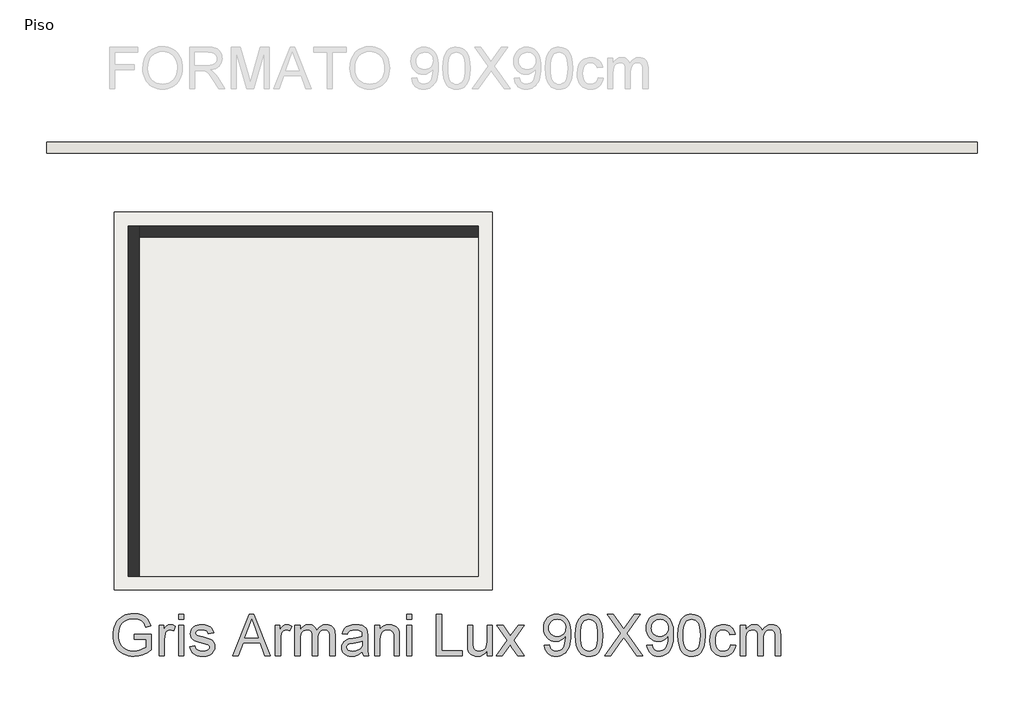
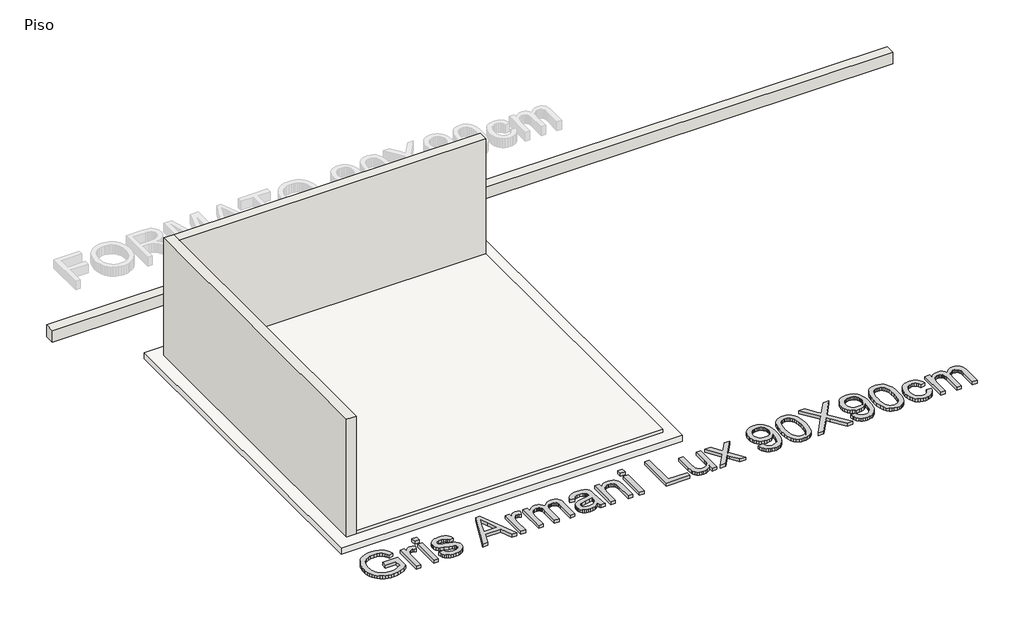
# One storey, part 1 of 2: 3 walls, 2 slabs, 1 proxy.
"""IFC4 building model written with IfcOpenShell, lengths in millimetres."""

from ifc_helpers import new_model, si_unit, frame, origin, origin_with_axes, place, context, project, spatial, polyline, outline, extrude, faceted_brep, element, save

model = new_model("IFC4")

# Units and contexts
model_context = context("Model", 3, world=origin())
ifc_project = project(units=[si_unit("LENGTHUNIT", "METRE", prefix="MILLI")], contexts=[model_context])

# Site, building, storey
site = spatial("IfcSite", under=ifc_project)
building = spatial("IfcBuilding", under=site)
storey = spatial("IfcBuildingStorey", under=building, Name="Piso", Elevation=0.0)

# Proxy
placement = place(None, origin())
element("IfcBuildingElementProxy", 1, Name="600mm Arial", ObjectType="600mm Arial", at=placement, inside=storey, context=model_context, shape_type="SweptSolid", body=[
    extrude(outline(polyline([(92961.2166585, -5291.3278966), (92961.2166585, -5215.985664), (93206.0789145, -5215.985664), (93206.0789145, -5441.2765979), (93146.5740018, -5482.6633223), (93085.1928909, -5512.3513993), (93022.0827346, -5530.2304643), (92957.3906857, -5536.1901526), (92914.1139675, -5533.8219123), (92872.8697973, -5526.7171912), (92833.6581752, -5514.8759895), (92796.479101, -5498.2983071), (92762.5327899, -5477.2324644), (92733.0194569, -5451.9267816), (92707.9391019, -5422.3812589), (92687.2917249, -5388.5958961), (92671.1646979, -5351.6513468), (92659.6453929, -5312.6282641), (92652.73381, -5271.5266482), (92650.429949, -5228.346499), (92652.7246129, -5185.1617513), (92659.6086047, -5143.4577287), (92671.0819245, -5103.234431), (92687.1445721, -5064.4918584), (92707.511439, -5028.931465), (92731.8974168, -4998.2547052), (92760.3025053, -4972.4615788), (92792.7267047, -4951.5520859), (92828.4664405, -4935.3928692), (92866.8181385, -4923.8505716), (92907.7817987, -4916.9251931), (92951.357421, -4914.6167336), (93013.4191136, -4919.9694166), (93069.2268123, -4936.0274657), (93094.1462189, -4947.7812954), (93116.2237372, -4961.6320525), (93135.459367, -4977.579737), (93151.8531084, -4995.6243489), (93178.2118533, -5039.6414296), (93197.3968994, -5095.3203696), (93127.9407787, -5114.8916917), (93112.4345526, -5075.1788304), (93093.5806003, -5045.2148419), (93068.6382011, -5022.6268873), (93034.8666339, -5005.042128), (92994.6019495, -4993.7297566), (92950.1801986, -4989.9589662), (92898.1800786, -4994.0240622), (92853.7215395, -5006.2193504), (92816.9701282, -5025.0181203), (92788.0913916, -5048.8936618), (92765.9265013, -5076.6135701), (92749.3166293, -5106.9454406), (92731.6582935, -5163.8199971), (92725.7721816, -5225.2562903), (92727.5426137, -5262.8768228), (92732.85391, -5297.305979), (92741.7060705, -5328.543759), (92754.0990952, -5356.5901626), (92769.8720357, -5381.3394238), (92788.8639437, -5402.6857766), (92811.0748192, -5420.6292209), (92836.5046621, -5435.1697567), (92863.9624545, -5446.4039532), (92892.2571785, -5454.4283792), (92921.388834, -5459.2430348), (92951.357421, -5460.84792), (93003.541482, -5456.0102718), (93054.4379561, -5441.4973271), (93098.6389778, -5421.5029406), (93130.7366819, -5400.2209672), (93130.7366819, -5291.3278966), (92961.2166585, -5291.3278966)])), origin_with_axes(), (0.0, 0.0, 1.0), 50.0),
    extrude(outline(polyline([(93319.0922634, -5526.7723735), (93319.0922634, -5084.1367569), (93385.0167169, -5084.1367569), (93385.0167169, -5149.6197521), (93409.370505, -5111.6543302), (93431.8113067, -5089.2871049), (93454.3256848, -5078.3610096), (93478.9002021, -5074.7189779), (93516.4241656, -5080.5315134), (93554.5367403, -5097.96912), (93529.3736118, -5165.5122543), (93502.8861082, -5153.9239714), (93476.3986045, -5150.0612105), (93453.9026205, -5153.7768186), (93433.7978695, -5164.9236431), (93417.5558794, -5182.6555552), (93406.6481782, -5206.1264265), (93397.4879166, -5248.2121268), (93394.434496, -5294.1237998), (93394.434496, -5526.7723735), (93319.0922634, -5526.7723735)])), origin_with_axes(), (0.0, 0.0, 1.0), 50.0),
    extrude(outline(polyline([(93601.6256357, -4999.3767453), (93601.6256357, -4924.0345126), (93676.9678683, -4924.0345126), (93676.9678683, -4999.3767453), (93601.6256357, -4999.3767453)])), origin_with_axes(), (0.0, 0.0, 1.0), 50.0),
    extrude(outline(polyline([(93601.6256357, -5526.7723735), (93601.6256357, -5084.1367569), (93676.9678683, -5084.1367569), (93676.9678683, -5526.7723735), (93601.6256357, -5526.7723735)])), origin_with_axes(), (0.0, 0.0, 1.0), 50.0),
    extrude(outline(polyline([(93761.72788, -5394.9234665), (93837.0701126, -5385.5056874), (93841.6226523, -5402.6857766), (93848.952701, -5417.7321502), (93859.0602589, -5430.6448082), (93871.9453257, -5441.4237507), (93887.6446899, -5449.9218247), (93906.1951395, -5455.9918777), (93951.8492951, -5460.84792), (93996.9516277, -5456.3965479), (94014.4812048, -5450.8323327), (94028.6630557, -5443.0424314), (94047.4250374, -5423.6918385), (94052.1155329, -5412.8577137), (94053.6790314, -5401.2510368), (94052.1063358, -5391.0790996), (94047.3882492, -5382.0475966), (94028.5159029, -5367.4058932), (94000.2993539, -5357.8409614), (93950.9663783, -5345.9215847), (93882.2092334, -5326.0375629), (93837.511571, -5309.0598088), (93808.7983813, -5290.5369503), (93787.9946544, -5266.0176154), (93775.3579079, -5237.0653023), (93771.1456591, -5205.2435098), (93774.5301734, -5176.0520734), (93784.6837165, -5149.1047173), (93800.6865833, -5125.4682991), (93821.6190688, -5106.2096767), (93842.4227956, -5094.0879649), (93869.5173046, -5083.9160277), (93900.8424565, -5077.0182403), (93934.3381121, -5074.7189779), (93983.3767821, -5078.4161919), (94026.0143053, -5089.5078341), (94060.3009073, -5106.9086524), (94084.2868134, -5129.5333951), (94100.1793156, -5159.0559253), (94110.1857058, -5197.1501059), (94034.8434732, -5206.5678849), (94025.3337236, -5182.8578903), (94006.5165596, -5164.9972195), (93978.2080401, -5153.7952127), (93940.224224, -5150.0612105), (93896.9613014, -5153.6296658), (93868.119353, -5164.3350319), (93851.895757, -5179.7860757), (93846.4878917, -5197.5915643), (93848.7319718, -5209.1798471), (93855.4642124, -5219.5173312), (93866.9789188, -5228.7511692), (93883.5703968, -5236.1455973), (93948.4647807, -5252.1852523), (94059.0501085, -5287.6490767), (94088.2599389, -5304.6084366), (94110.406435, -5327.8217905), (94124.3675567, -5357.3627148), (94129.021264, -5393.3047857), (94123.5582163, -5430.4608672), (94107.1690735, -5465.4096567), (94080.4792347, -5495.4104334), (94044.1140995, -5517.7224765), (94000.1889893, -5531.5732336), (93950.8192255, -5536.1901526), (93910.2694326, -5533.9644665), (93874.8515935, -5527.2874083), (93844.5657083, -5516.158978), (93819.4117768, -5500.5791755), (93798.8655674, -5480.6215772), (93782.4028481, -5456.3597597), (93770.023619, -5427.7937227), (93761.72788, -5394.9234665)])), origin_with_axes(), (0.0, 0.0, 1.0), 50.0),
    extrude(outline(polyline([(94388.451647, -5526.7723735), (94629.0464718, -4924.0345126), (94693.2050918, -4924.0345126), (94933.7999166, -5526.7723735), (94854.1902529, -5526.7723735), (94785.1755906, -5338.416792), (94536.9288202, -5338.416792), (94468.0613107, -5526.7723735), (94388.451647, -5526.7723735)]), holes=[polyline([(94564.5935463, -5263.0745594), (94757.6580173, -5263.0745594), (94703.3586348, -5114.8916917), (94661.1257818, -4999.3767453), (94623.6018183, -5101.9422455), (94564.5935463, -5263.0745594)])]), origin_with_axes(), (0.0, 0.0, 1.0), 50.0),
    extrude(outline(polyline([(95004.8747181, -5526.7723735), (95004.8747181, -5084.1367569), (95070.7991716, -5084.1367569), (95070.7991716, -5149.6197521), (95095.1529597, -5111.6543302), (95117.5937614, -5089.2871049), (95140.1081395, -5078.3610096), (95164.6826568, -5074.7189779), (95202.2066203, -5080.5315134), (95240.319195, -5097.96912), (95215.1560665, -5165.5122543), (95188.6685629, -5153.9239714), (95162.1810592, -5150.0612105), (95139.6850752, -5153.7768186), (95119.5803242, -5164.9236431), (95103.3383341, -5182.6555552), (95092.4306329, -5206.1264265), (95083.2703713, -5248.2121268), (95080.2169507, -5294.1237998), (95080.2169507, -5526.7723735), (95004.8747181, -5526.7723735)])), origin_with_axes(), (0.0, 0.0, 1.0), 50.0),
    extrude(outline(polyline([(95287.4080904, -5526.7723735), (95287.4080904, -5084.1367569), (95362.750323, -5084.1367569), (95362.750323, -5156.977392), (95385.4118539, -5123.5185245), (95414.5481079, -5097.3069324), (95449.1658037, -5080.3659665), (95488.2716598, -5074.7189779), (95530.173419, -5080.4763311), (95548.0064987, -5087.6730226), (95563.7610452, -5097.7483908), (95588.8505972, -5125.3947227), (95605.2581342, -5162.2748927), (95632.7205252, -5123.96918), (95664.045677, -5096.6079566), (95699.2335899, -5080.1912225), (95738.2842637, -5074.7189779), (95768.4459888, -5076.9952477), (95794.9196968, -5083.8240572), (95817.7053879, -5095.2054065), (95836.803062, -5111.1392954), (95851.9000194, -5131.809665), (95862.6835603, -5157.4004563), (95869.1536849, -5187.9116693), (95871.3103931, -5223.3433039), (95871.3103931, -5526.7723735), (95795.9681605, -5526.7723735), (95795.9681605, -5255.7169195), (95794.220721, -5218.1377737), (95788.9784026, -5192.8090983), (95779.1559533, -5175.4634622), (95763.6681213, -5161.8334343), (95743.7473113, -5153.0042664), (95720.6259279, -5150.0612105), (95699.2749766, -5151.9466057), (95679.8094205, -5157.6027914), (95662.2292597, -5167.0297675), (95646.5344941, -5180.2275341), (95633.6264346, -5197.5823672), (95624.4063921, -5219.480543), (95618.8743666, -5245.9220614), (95617.0303581, -5276.9069224), (95617.0303581, -5526.7723735), (95541.6881255, -5526.7723735), (95541.6881255, -5247.32921), (95537.3287238, -5204.728475), (95531.8794718, -5188.0082383), (95524.2505189, -5174.3414222), (95514.1383625, -5163.7188295), (95501.2395001, -5156.1312634), (95485.5539315, -5151.5787237), (95467.0816568, -5150.0612105), (95438.0557674, -5154.1079124), (95411.3107464, -5166.2480183), (95389.2378267, -5186.1872224), (95374.2282412, -5213.6312192), (95365.6198026, -5251.7070057), (95362.750323, -5303.5415789), (95362.750323, -5526.7723735), (95287.4080904, -5526.7723735)])), origin_with_axes(), (0.0, 0.0, 1.0), 50.0),
    extrude(outline(polyline([(96266.8571143, -5470.2656991), (96230.8598611, -5501.1309985), (96193.7957501, -5521.32772), (96154.8186527, -5532.4745445), (96113.0824404, -5536.1901526), (96079.5362009, -5533.9552695), (96050.1194369, -5527.2506201), (96024.8321482, -5516.0762045), (96003.674335, -5500.4320227), (95986.9678939, -5481.311356), (95975.0347217, -5459.7074858), (95967.8748183, -5435.6204122), (95965.4881839, -5409.0501351), (95969.0934274, -5377.8169537), (95979.9091581, -5349.4532519), (95996.5926066, -5325.1730402), (96017.8010036, -5306.1903292), (96042.7250088, -5291.8429314), (96070.5552817, -5281.4686592), (96135.7439713, -5270.1378937), (96212.7784611, -5258.2185171), (96266.415656, -5244.2390012), (96266.8571143, -5227.4635823), (96261.6699782, -5193.8391679), (96255.186058, -5181.3863624), (96246.1085698, -5171.8398246), (96230.4184027, -5162.3116809), (96211.3069331, -5155.505864), (96162.8200861, -5150.0612105), (96117.9384827, -5153.6848481), (96086.5949367, -5164.5557611), (96065.2209928, -5184.6605121), (96050.2481956, -5215.985664), (95974.905963, -5206.5678849), (95987.9841679, -5165.3651015), (96007.5003077, -5132.9914859), (96035.2753984, -5108.2330276), (96073.1304557, -5089.8757161), (96119.4284048, -5078.5081624), (96172.5321708, -5074.7189779), (96223.465433, -5078.066704), (96263.840482, -5088.1098825), (96294.2827171, -5103.2114384), (96315.4175377, -5121.7342968), (96329.4338417, -5144.634951), (96338.520527, -5172.8698942), (96342.199347, -5238.7943477), (96342.199347, -5332.5306801), (96346.0253197, -5463.423094), (96351.6907024, -5495.7783154), (96361.0349051, -5526.7723735), (96285.6926725, -5526.7723735), (96273.6261431, -5500.5791755), (96266.8571143, -5470.2656991)]), holes=[polyline([(96266.8571143, -5319.5812339), (96216.2365518, -5332.1260099), (96145.3089031, -5342.6842232), (96080.4880956, -5354.8979054), (96063.6207061, -5363.2488267), (96051.1311124, -5374.7635331), (96043.4055905, -5388.5591079), (96040.8304165, -5403.7526343), (96046.4406169, -5426.1566479), (96063.2712182, -5444.5139594), (96090.9543384, -5456.7644299), (96129.1220954, -5460.84792), (96169.5891148, -5456.3413656), (96205.3472448, -5442.8217022), (96234.336346, -5422.9008922), (96254.4962793, -5399.1908976), (96263.4358118, -5374.7635331), (96266.415656, -5340.9183896), (96266.8571143, -5319.5812339)])]), origin_with_axes(), (0.0, 0.0, 1.0), 50.0),
    extrude(outline(polyline([(96445.7949168, -5526.7723735), (96445.7949168, -5084.1367569), (96521.1371494, -5084.1367569), (96521.1371494, -5145.9409321), (96547.3119534, -5114.7813271), (96578.7474699, -5092.5244664), (96615.4436989, -5079.17035), (96657.4006404, -5074.7189779), (96694.5383278, -5078.3058273), (96728.5490183, -5089.0663757), (96756.9127201, -5105.6578537), (96777.1094417, -5126.737492), (96790.813046, -5152.2501083), (96799.6973962, -5182.1405205), (96803.6705217, -5254.9811555), (96803.6705217, -5526.7723735), (96728.3282891, -5526.7723735), (96728.3282891, -5265.1346986), (96726.1577853, -5226.1759953), (96719.646274, -5198.474481), (96707.6349269, -5178.6272474), (96688.9649156, -5163.2313859), (96665.0341918, -5153.3537543), (96637.2407071, -5150.0612105), (96614.3630455, -5151.9098175), (96593.1132618, -5157.4556386), (96573.4913558, -5166.6986737), (96555.4973278, -5179.6389229), (96540.4647497, -5197.7479141), (96529.727194, -5222.4971753), (96523.2846606, -5253.8867066), (96521.1371494, -5291.9165078), (96521.1371494, -5526.7723735), (96445.7949168, -5526.7723735)])), origin_with_axes(), (0.0, 0.0, 1.0), 50.0),
    extrude(outline(polyline([(96907.2660915, -4999.3767453), (96907.2660915, -4924.0345126), (96982.6083242, -4924.0345126), (96982.6083242, -4999.3767453), (96907.2660915, -4999.3767453)])), origin_with_axes(), (0.0, 0.0, 1.0), 50.0),
    extrude(outline(polyline([(96907.2660915, -5526.7723735), (96907.2660915, -5084.1367569), (96982.6083242, -5084.1367569), (96982.6083242, -5526.7723735), (96907.2660915, -5526.7723735)])), origin_with_axes(), (0.0, 0.0, 1.0), 50.0),
    extrude(outline(polyline([(97340.4839291, -5526.7723735), (97340.4839291, -4924.0345126), (97415.8261617, -4924.0345126), (97415.8261617, -5451.4301409), (97717.1950921, -5451.4301409), (97717.1950921, -5526.7723735), (97340.4839291, -5526.7723735)])), origin_with_axes(), (0.0, 0.0, 1.0), 50.0),
    extrude(outline(polyline([(98075.070697, -5526.7723735), (98075.070697, -5450.6943769), (98047.8106412, -5488.0987788), (98016.062425, -5514.8162087), (97979.8260485, -5530.8466666), (97939.1015116, -5536.1901526), (97902.4052826, -5532.4377563), (97868.2474393, -5521.1805672), (97839.5894319, -5504.2579954), (97819.3927104, -5483.5094509), (97805.7994707, -5458.3095342), (97796.9519087, -5428.032846), (97792.5373247, -5357.9881141), (97792.5373247, -5084.1367569), (97867.8795574, -5084.1367569), (97867.8795574, -5322.5242898), (97869.0199915, -5370.2017964), (97872.4412941, -5399.3380504), (97883.4225717, -5424.9610314), (97902.2397357, -5444.440383), (97927.6419875, -5456.7460358), (97958.3785282, -5460.84792), (97990.8809024, -5456.6540653), (98021.2863493, -5444.072501), (98046.3575073, -5424.2620556), (98062.8570148, -5398.3815572), (98072.0172765, -5362.936127), (98075.070697, -5314.4308859), (98075.070697, -5084.1367569), (98150.4129296, -5084.1367569), (98150.4129296, -5526.7723735), (98075.070697, -5526.7723735)])), origin_with_axes(), (0.0, 0.0, 1.0), 50.0),
    extrude(outline(polyline([(98206.9196041, -5526.7723735), (98367.9047652, -5304.2773429), (98216.3373832, -5084.1367569), (98306.9835068, -5084.1367569), (98380.1184474, -5190.0867716), (98414.2578966, -5240.1187229), (98443.835609, -5199.210245), (98527.1240927, -5084.1367569), (98617.7702163, -5084.1367569), (98458.5508888, -5304.2773429), (98611.8841044, -5526.7723735), (98521.2379808, -5526.7723735), (98428.9731764, -5393.0104801), (98412.0506046, -5368.5831156), (98297.5657277, -5526.7723735), (98206.9196041, -5526.7723735)])), origin_with_axes(), (0.0, 0.0, 1.0), 50.0),
    extrude(outline(polyline([(98903.8352558, -5376.0879083), (98979.1774884, -5366.6701292), (98992.0533582, -5409.4364112), (99001.5263196, -5425.7013939), (99013.0226319, -5438.5542711), (99026.4135366, -5448.3077425), (99041.5702748, -5455.2745078), (99077.1812519, -5460.84792), (99109.1318032, -5457.2610705), (99138.1760867, -5446.5005222), (99162.3091456, -5429.7434973), (99179.526023, -5408.1672183), (99192.5674397, -5379.8035165), (99204.1741166, -5342.6842232), (99212.3410969, -5300.0834881), (99215.0634237, -5255.2754611), (99214.6219653, -5240.5601813), (99188.5207377, -5272.4187621), (99154.3628945, -5297.6554669), (99114.6132449, -5314.0997921), (99071.7365984, -5319.5812339), (99035.9462788, -5316.2335077), (99003.0346358, -5306.1903292), (98973.0016694, -5289.4516984), (98945.8473796, -5266.0176154), (98923.3467971, -5237.1112876), (98907.2749524, -5203.9559228), (98897.6318456, -5166.5515209), (98894.4174767, -5124.898082), (98897.7881955, -5081.8558886), (98907.9003518, -5043.2282791), (98924.7539457, -5009.0152535), (98948.3489772, -4979.2168119), (98977.0207802, -4955.074556), (99009.1046887, -4937.8300875), (99044.6007027, -4927.4834063), (99083.5088222, -4924.0345126), (99112.2358075, -4926.0026813), (99139.702797, -4931.9071873), (99165.9097906, -4941.7480307), (99190.8567884, -4955.5252114), (99213.7114574, -4972.9444239), (99233.6414644, -4993.7113625), (99250.6468097, -5017.8260273), (99264.727493, -5045.2884182), (99275.7685514, -5077.6804279), (99283.6550217, -5116.5839489), (99288.3869039, -5161.9989812), (99289.9641979, -5213.9255248), (99288.3915024, -5268.4594321), (99283.6734158, -5317.1348186), (99275.8099381, -5359.9516843), (99264.8010694, -5396.9100292), (99250.6881964, -5428.9111643), (99233.5127057, -5456.8564004), (99213.2745975, -5480.7457374), (99189.9738716, -5500.5791755), (99164.0795777, -5516.158978), (99136.0607652, -5527.2874083), (99105.9174342, -5533.9644665), (99073.6495847, -5536.1901526), (99039.8136382, -5533.5643949), (99009.2334474, -5525.6871217), (98981.9090122, -5512.5583329), (98957.8403327, -5494.1780288), (98937.6344141, -5471.0428498), (98921.8982617, -5443.6494367), (98910.6318756, -5411.9977896), (98903.8352558, -5376.0879083)]), holes=[polyline([(99214.6219653, -5123.1322484), (99212.5894173, -5096.12971), (99206.4917732, -5072.0702275), (99196.3290331, -5050.953801), (99182.1011969, -5032.7804304), (99164.5072405, -5018.1663182), (99144.2461396, -5007.7276665), (99121.3178943, -5001.4644756), (99095.7225045, -4999.3767453), (99069.3085772, -5001.6254239), (99045.3962475, -5008.37146), (99023.9855154, -5019.6148535), (99005.0763808, -5035.3556044), (98989.625337, -5054.6740077), (98978.5888772, -5076.6503583), (98971.9670013, -5101.2846564), (98969.7597093, -5128.576902), (98971.8474396, -5153.0548502), (98978.1106306, -5175.1323684), (98988.5492822, -5194.8094567), (99003.1633945, -5212.0861149), (99021.3459621, -5226.1530027), (99042.4899798, -5236.2007796), (99066.5954475, -5242.2294458), (99093.6623653, -5244.2390012), (99118.9036687, -5242.2294458), (99141.7997244, -5236.2007796), (99162.3505323, -5226.1530027), (99180.5560925, -5212.0861149), (99195.4599119, -5194.4691658), (99206.1054971, -5173.7712051), (99212.4928483, -5149.9922326), (99214.6219653, -5123.1322484)])]), origin_with_axes(), (0.0, 0.0, 1.0), 50.0),
    extrude(outline(polyline([(99355.8886514, -5230.2594854), (99361.4252755, -5133.7824322), (99368.3460555, -5092.8693558), (99378.0351476, -5056.8399129), (99390.4511649, -5025.3997979), (99405.5527208, -4998.2547052), (99423.3398153, -4975.4046347), (99443.8124483, -4956.8495866), (99467.0395978, -4942.4929917), (99493.0902415, -4932.2382811), (99521.9643796, -4926.0854548), (99553.6620121, -4924.0345126), (99600.0887198, -4928.890555), (99641.6593853, -4943.458682), (99676.4242338, -4967.1686766), (99702.4334909, -4999.4503217), (99722.0783894, -5040.0277057), (99737.7501624, -5088.6249173), (99748.0140701, -5150.337122), (99751.4353727, -5230.2594854), (99745.9539309, -5326.1847157), (99739.1021288, -5366.9598363), (99729.5096057, -5402.943294), (99717.1901574, -5434.3972045), (99702.1575794, -5461.583684), (99684.4118717, -5484.5027323), (99663.9530342, -5503.1543494), (99640.6982936, -5517.6075133), (99614.5648764, -5527.9312018), (99585.5527825, -5534.1254149), (99553.6620121, -5536.1901526), (99512.164923, -5532.6033032), (99475.3767235, -5521.8427548), (99443.2974135, -5503.9085075), (99415.9269931, -5478.8005614), (99389.6602186, -5433.4131202), (99370.8982368, -5376.8604605), (99359.6410478, -5309.1425822), (99355.8886514, -5230.2594854)]), holes=[polyline([(99431.2308841, -5230.1123326), (99433.438176, -5295.6091233), (99440.0600519, -5348.6255174), (99451.0965118, -5389.1615147), (99466.5475556, -5417.2171154), (99485.2359609, -5436.3055924), (99505.9845055, -5449.9402188), (99528.7931892, -5458.1209947), (99553.6620121, -5460.84792), (99578.5308349, -5458.1117977), (99601.3395186, -5449.9034306), (99622.0880632, -5436.2228189), (99640.7764685, -5417.0699626), (99656.2275123, -5388.9683767), (99667.2639722, -5348.4415764), (99673.8858481, -5295.4895617), (99676.09314, -5230.1123326), (99673.9594245, -5166.3491858), (99667.5582778, -5114.2662923), (99656.8896999, -5073.8636522), (99641.9536909, -5045.1412655), (99623.5779852, -5025.1192879), (99602.5903174, -5010.8178753), (99578.9906874, -5002.2370278), (99552.7790953, -4999.3767453), (99528.0390311, -5001.8967369), (99505.6166235, -5009.4567119), (99485.5118724, -5022.0566703), (99467.724778, -5039.6966119), (99451.7586994, -5070.9665815), (99440.3543575, -5113.1258582), (99433.5117524, -5166.1744419), (99431.2308841, -5230.1123326)])]), origin_with_axes(), (0.0, 0.0, 1.0), 50.0),
    extrude(outline(polyline([(99779.6887099, -5526.7723735), (100012.042978, -5198.3273282), (99817.3598262, -4924.0345126), (99907.7116442, -4924.0345126), (100017.3404788, -5078.3977978), (100043.4968886, -5117.5036539), (100054.2758311, -5138.5832922), (100097.5387537, -5077.3677282), (100205.9903659, -4924.0345126), (100297.6665591, -4924.0345126), (100102.9834073, -5199.210245), (100335.3376754, -5526.7723735), (100244.9858574, -5526.7723735), (100090.1811138, -5308.3976212), (100057.954651, -5263.0745594), (100022.4908267, -5312.8122051), (99871.3649031, -5526.7723735), (99779.6887099, -5526.7723735)])), origin_with_axes(), (0.0, 0.0, 1.0), 50.0),
    extrude(outline(polyline([(100391.8443499, -5376.0879083), (100467.1865825, -5366.6701292), (100480.0624523, -5409.4364112), (100489.5354137, -5425.7013939), (100501.031726, -5438.5542711), (100514.4226307, -5448.3077425), (100529.5793689, -5455.2745078), (100565.190346, -5460.84792), (100597.1408973, -5457.2610705), (100626.1851808, -5446.5005222), (100650.3182397, -5429.7434973), (100667.535117, -5408.1672183), (100680.5765338, -5379.8035165), (100692.1832107, -5342.6842232), (100700.350191, -5300.0834881), (100703.0725178, -5255.2754611), (100702.6310594, -5240.5601813), (100676.5298318, -5272.4187621), (100642.3719886, -5297.6554669), (100602.622339, -5314.0997921), (100559.7456925, -5319.5812339), (100523.9553729, -5316.2335077), (100491.0437299, -5306.1903292), (100461.0107635, -5289.4516984), (100433.8564737, -5266.0176154), (100411.3558912, -5237.1112876), (100395.2840465, -5203.9559228), (100385.6409397, -5166.5515209), (100382.4265708, -5124.898082), (100385.7972896, -5081.8558886), (100395.9094459, -5043.2282791), (100412.7630398, -5009.0152535), (100436.3580713, -4979.2168119), (100465.0298743, -4955.074556), (100497.1137828, -4937.8300875), (100532.6097968, -4927.4834063), (100571.5179163, -4924.0345126), (100600.2449016, -4926.0026813), (100627.7118911, -4931.9071873), (100653.9188847, -4941.7480307), (100678.8658825, -4955.5252114), (100701.7205515, -4972.9444239), (100721.6505585, -4993.7113625), (100738.6559038, -5017.8260273), (100752.7365871, -5045.2884182), (100763.7776455, -5077.6804279), (100771.6641158, -5116.5839489), (100776.3959979, -5161.9989812), (100777.973292, -5213.9255248), (100776.4005965, -5268.4594321), (100771.6825099, -5317.1348186), (100763.8190322, -5359.9516843), (100752.8101635, -5396.9100292), (100738.6972905, -5428.9111643), (100721.5217998, -5456.8564004), (100701.2836916, -5480.7457374), (100677.9829657, -5500.5791755), (100652.0886718, -5516.158978), (100624.0698593, -5527.2874083), (100593.9265283, -5533.9644665), (100561.6586788, -5536.1901526), (100527.8227323, -5533.5643949), (100497.2425415, -5525.6871217), (100469.9181063, -5512.5583329), (100445.8494268, -5494.1780288), (100425.6435082, -5471.0428498), (100409.9073558, -5443.6494367), (100398.6409697, -5411.9977896), (100391.8443499, -5376.0879083)]), holes=[polyline([(100702.6310594, -5123.1322484), (100700.5985114, -5096.12971), (100694.5008673, -5072.0702275), (100684.3381272, -5050.953801), (100670.110291, -5032.7804304), (100652.5163346, -5018.1663182), (100632.2552337, -5007.7276665), (100609.3269884, -5001.4644756), (100583.7315985, -4999.3767453), (100557.3176713, -5001.6254239), (100533.4053416, -5008.37146), (100511.9946095, -5019.6148535), (100493.0854749, -5035.3556044), (100477.6344311, -5054.6740077), (100466.5979713, -5076.6503583), (100459.9760954, -5101.2846564), (100457.7688034, -5128.576902), (100459.8565337, -5153.0548502), (100466.1197247, -5175.1323684), (100476.5583763, -5194.8094567), (100491.1724886, -5212.0861149), (100509.3550562, -5226.1530027), (100530.4990738, -5236.2007796), (100554.6045416, -5242.2294458), (100581.6714594, -5244.2390012), (100606.9127628, -5242.2294458), (100629.8088184, -5236.2007796), (100650.3596264, -5226.1530027), (100668.5651866, -5212.0861149), (100683.469006, -5194.4691658), (100694.1145912, -5173.7712051), (100700.5019423, -5149.9922326), (100702.6310594, -5123.1322484)])]), origin_with_axes(), (0.0, 0.0, 1.0), 50.0),
    extrude(outline(polyline([(100843.8977455, -5230.2594854), (100849.4343696, -5133.7824322), (100856.3551496, -5092.8693558), (100866.0442416, -5056.8399129), (100878.460259, -5025.3997979), (100893.5618149, -4998.2547052), (100911.3489094, -4975.4046347), (100931.8215424, -4956.8495866), (100955.0486919, -4942.4929917), (100981.0993356, -4932.2382811), (101009.9734737, -4926.0854548), (101041.6711061, -4924.0345126), (101088.0978139, -4928.890555), (101129.6684794, -4943.458682), (101164.4333279, -4967.1686766), (101190.442585, -4999.4503217), (101210.0874835, -5040.0277057), (101225.7592565, -5088.6249173), (101236.0231642, -5150.337122), (101239.4444668, -5230.2594854), (101233.963025, -5326.1847157), (101227.1112229, -5366.9598363), (101217.5186998, -5402.943294), (101205.1992515, -5434.3972045), (101190.1666735, -5461.583684), (101172.4209658, -5484.5027323), (101151.9621283, -5503.1543494), (101128.7073877, -5517.6075133), (101102.5739704, -5527.9312018), (101073.5618766, -5534.1254149), (101041.6711061, -5536.1901526), (101000.1740171, -5532.6033032), (100963.3858176, -5521.8427548), (100931.3065076, -5503.9085075), (100903.9360871, -5478.8005614), (100877.6693127, -5433.4131202), (100858.9073309, -5376.8604605), (100847.6501419, -5309.1425822), (100843.8977455, -5230.2594854)]), holes=[polyline([(100919.2399781, -5230.1123326), (100921.4472701, -5295.6091233), (100928.069146, -5348.6255174), (100939.1056059, -5389.1615147), (100954.5566497, -5417.2171154), (100973.245055, -5436.3055924), (100993.9935996, -5449.9402188), (101016.8022833, -5458.1209947), (101041.6711061, -5460.84792), (101066.539929, -5458.1117977), (101089.3486127, -5449.9034306), (101110.0971572, -5436.2228189), (101128.7855626, -5417.0699626), (101144.2366064, -5388.9683767), (101155.2730663, -5348.4415764), (101161.8949422, -5295.4895617), (101164.1022341, -5230.1123326), (101161.9685186, -5166.3491858), (101155.5673718, -5114.2662923), (101144.898794, -5073.8636522), (101129.962785, -5045.1412655), (101111.5870793, -5025.1192879), (101090.5994115, -5010.8178753), (101066.9997815, -5002.2370278), (101040.7881894, -4999.3767453), (101016.0481252, -5001.8967369), (100993.6257176, -5009.4567119), (100973.5209665, -5022.0566703), (100955.7338721, -5039.6966119), (100939.7677935, -5070.9665815), (100928.3634516, -5113.1258582), (100921.5208465, -5166.1744419), (100919.2399781, -5230.1123326)])]), origin_with_axes(), (0.0, 0.0, 1.0), 50.0),
    extrude(outline(polyline([(101606.7378507, -5366.6701292), (101682.0800833, -5376.0879083), (101673.8855119, -5411.6391046), (101661.0740214, -5443.0976137), (101643.6456119, -5470.4634356), (101621.6002833, -5493.7365704), (101595.8669378, -5512.3100126), (101567.3744773, -5525.5767571), (101536.1229018, -5533.5368037), (101502.1122113, -5536.1901526), (101459.8563656, -5532.48834), (101421.9691187, -5521.3829023), (101388.4504704, -5502.8738394), (101359.3004208, -5476.9611514), (101335.7053893, -5444.1322818), (101318.8517954, -5404.8746744), (101308.7396391, -5359.1883292), (101305.3689203, -5307.073246), (101311.1262735, -5240.0267524), (101318.322965, -5209.8558303), (101328.3983332, -5181.9197913), (101341.4213558, -5156.7796554), (101357.4610108, -5134.9964428), (101376.5172982, -5116.5701533), (101398.5902179, -5101.5007871), (101422.68189, -5089.7837456), (101447.7944347, -5081.4144302), (101473.927852, -5076.3928409), (101501.0821417, -5074.7189779), (101534.5088195, -5077.0182403), (101564.744121, -5083.9160277), (101591.7880462, -5095.4123401), (101615.640595, -5111.5071774), (101635.8970974, -5131.8326576), (101652.152883, -5156.0208988), (101664.407952, -5184.0719009), (101672.6623043, -5215.985664), (101597.3200717, -5225.4034431), (101583.6532555, -5192.5331868), (101562.3712821, -5168.970345), (101534.6513738, -5154.7884941), (101501.6707529, -5150.0612105), (101476.0707646, -5152.3880641), (101452.9815709, -5159.368625), (101432.4031717, -5171.0028931), (101414.3355673, -5187.2908684), (101399.624886, -5208.60963), (101389.1172565, -5235.336257), (101382.8126788, -5267.4707492), (101380.7111529, -5305.0131068), (101382.7666935, -5343.121083), (101388.9333155, -5375.6280558), (101399.2110187, -5402.5340252), (101413.5998033, -5423.8389913), (101431.3087228, -5440.0303976), (101451.5468311, -5451.5956878), (101474.314128, -5458.534862), (101499.6106137, -5460.84792), (101538.6244993, -5455.0721727), (101555.4964873, -5447.8524885), (101570.6118388, -5437.7449307), (101583.5474895, -5424.6391346), (101593.880375, -5408.4247357), (101601.6104954, -5389.1017339), (101606.7378507, -5366.6701292)])), origin_with_axes(), (0.0, 0.0, 1.0), 50.0),
    extrude(outline(polyline([(101748.0045369, -5526.7723735), (101748.0045369, -5084.1367569), (101823.3467695, -5084.1367569), (101823.3467695, -5156.977392), (101846.0083004, -5123.5185245), (101875.1445544, -5097.3069324), (101909.7622502, -5080.3659665), (101948.8681062, -5074.7189779), (101990.7698655, -5080.4763311), (102008.6029452, -5087.6730226), (102024.3574917, -5097.7483908), (102049.4470437, -5125.3947227), (102065.8545807, -5162.2748927), (102093.3169717, -5123.96918), (102124.6421235, -5096.6079566), (102159.8300364, -5080.1912225), (102198.8807102, -5074.7189779), (102229.0424353, -5076.9952477), (102255.5161433, -5083.8240572), (102278.3018344, -5095.2054065), (102297.3995085, -5111.1392954), (102312.4964659, -5131.809665), (102323.2800068, -5157.4004563), (102329.7501314, -5187.9116693), (102331.9068396, -5223.3433039), (102331.9068396, -5526.7723735), (102256.564607, -5526.7723735), (102256.564607, -5255.7169195), (102254.8171675, -5218.1377737), (102249.5748491, -5192.8090983), (102239.7523998, -5175.4634622), (102224.2645678, -5161.8334343), (102204.3437578, -5153.0042664), (102181.2223744, -5150.0612105), (102159.8714231, -5151.9466057), (102140.405867, -5157.6027914), (102122.8257062, -5167.0297675), (102107.1309406, -5180.2275341), (102094.2228811, -5197.5823672), (102085.0028386, -5219.480543), (102079.4708131, -5245.9220614), (102077.6268046, -5276.9069224), (102077.6268046, -5526.7723735), (102002.2845719, -5526.7723735), (102002.2845719, -5247.32921), (101997.9251703, -5204.728475), (101992.4759183, -5188.0082383), (101984.8469654, -5174.3414222), (101974.734809, -5163.7188295), (101961.8359466, -5156.1312634), (101946.150378, -5151.5787237), (101927.6781033, -5150.0612105), (101898.6522139, -5154.1079124), (101871.9071929, -5166.2480183), (101849.8342731, -5186.1872224), (101834.8246877, -5213.6312192), (101826.2162491, -5251.7070057), (101823.3467695, -5303.5415789), (101823.3467695, -5526.7723735), (101748.0045369, -5526.7723735)])), origin_with_axes(), (0.0, 0.0, 1.0), 50.0),
])

# Slabs
element("IfcSlab", 2, ObjectType="5cm - Porcelanato Gris Armani Lux  - Polido 90X90", at=placement, inside=storey, context=model_context, shape_type="SweptSolid", body=[
    extrude(outline(polyline([(97948.3735131, 549.3612577), (97948.3735131, -4371.2387423), (93027.7735131, -4371.2387423), (93027.7735131, 549.3612577), (97948.3735131, 549.3612577)])), origin_with_axes(), (0.0, 0.0, 1.0), 50.0),
])
element("IfcSlab", 3, ObjectType="CO02 - Concreto Estrutural Simples", at=placement, inside=storey, context=model_context, shape_type="SweptSolid", body=[
    extrude(outline(polyline([(98148.3735131, 908.1612577), (98148.3735131, -4571.2387423), (92668.9735131, -4571.2387423), (92668.9735131, 908.1612577), (98148.3735131, 908.1612577)])), frame((0.0, 0.0, -100.0), z_axis=(0.0, 0.0, 1.0), x_axis=(1.0, 0.0, 0.0)), (0.0, 0.0, 1.0), 100.0),
])

# Walls
element("IfcWall", 4, ObjectType="CO01 - Bloco de Concreto 14cm / Pintura Branca Simples", at=placement, inside=storey, context=model_context, shape_type="SweptSolid", body=[
    extrude(outline(polyline([(105186.699165, 1765.7486968), (91686.699165, 1765.7486968), (91686.699165, 1924.5486968), (105186.699165, 1924.5486968), (105186.699165, 1765.7486968)])), origin_with_axes(), (0.0, 0.0, 1.0), 200.0),
])
element("IfcWall", 5, ObjectType="CO01 - Bloco de Concreto 14cm / Pintura Branca Simples", at=placement, inside=storey, context=model_context, shape_type="Brep", body=[
    faceted_brep([(93027.7735131, -4371.2387423, 0.0), (93027.7735131, 549.3612577, 0.0), (93027.7735131, 708.1612577, 0.0), (93027.7735131, 708.1612577, 2000.0), (93027.7735131, 549.3612577, 2000.0), (93027.7735131, -4371.2387423, 2000.0), (92868.9735131, -4371.2387423, 0.0), (92868.9735131, -4371.2387423, 2000.0), (92868.9735131, 708.1612577, 2000.0), (92868.9735131, 708.1612577, 0.0)], [[[0, 1, 2, 3, 4, 5]], [[6, 7, 8, 9]], [[2, 1, 0, 6, 9]], [[5, 4, 3, 8, 7]], [[0, 5, 7, 6]], [[3, 2, 9, 8]]]),
])
element("IfcWall", 6, ObjectType="CO01 - Bloco de Concreto 14cm / Pintura Branca Simples", at=placement, inside=storey, context=model_context, shape_type="SweptSolid", body=[
    extrude(outline(polyline([(97948.3735131, 549.3612577), (93027.7735131, 549.3612577), (93027.7735131, 708.1612577), (97948.3735131, 708.1612577), (97948.3735131, 549.3612577)])), origin_with_axes(), (0.0, 0.0, 1.0), 2000.0),
])

save(model, "model.ifc")
